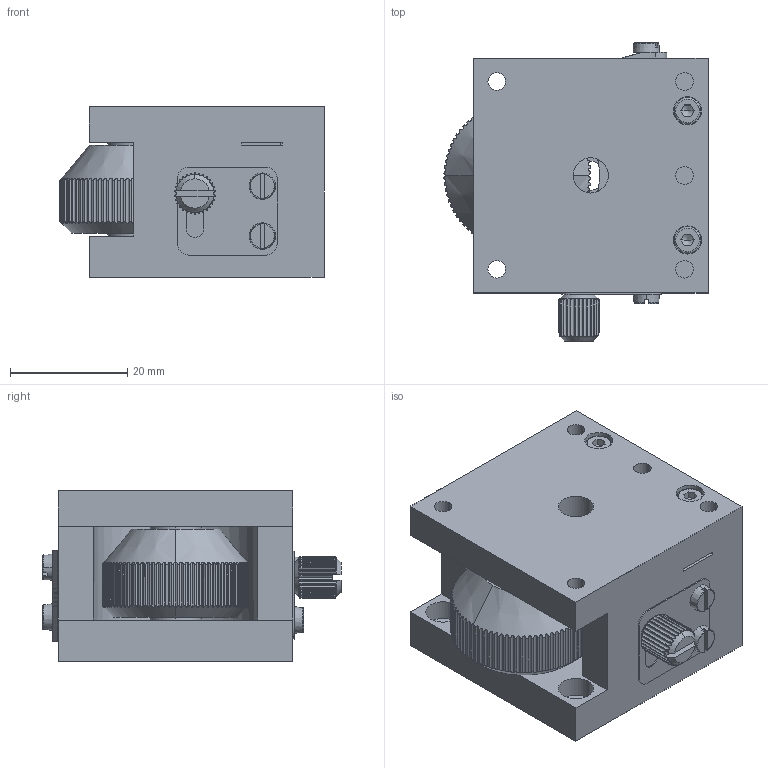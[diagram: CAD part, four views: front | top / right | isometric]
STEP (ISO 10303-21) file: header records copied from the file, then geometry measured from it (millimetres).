
FILE_DESCRIPTION (( 'STEP AP203' ), '1' );
FILE_NAME ('7VT174-5.STEP', '2008-09-22T08:56:31', ( 'Darius' ), ( '' ), 'SwSTEP 2.0', 'SolidWorks 2003240', '' );
FILE_SCHEMA (( 'CONFIG_CONTROL_DESIGN' ));
Length unit declared in the file: millimetre
Products named in the file (1): 7VT174-5
Bounding box: 45 x 50.8 x 29 mm (x, y, z)
Volume: 41623.6 mm3; surface area: 13876.1 mm2
Topology: 1 solids, 1 shells, 537 faces, 1525 edges, 1005 vertices
Faces by surface type: cylinder 321, plane 163, bspline 31, cone 22
Entity records: 20735 total; most frequent: CARTESIAN_POINT 7293, ORIENTED_EDGE 3042, DIRECTION 2482, EDGE_CURVE 1521, VERTEX_POINT 1005, AXIS2_PLACEMENT_3D 884, LINE 714, VECTOR 714
